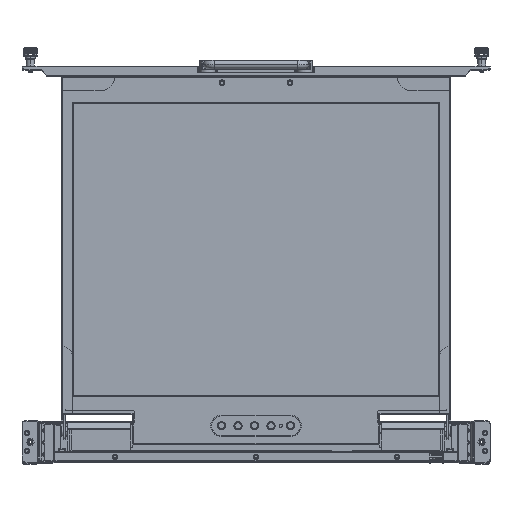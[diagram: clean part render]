
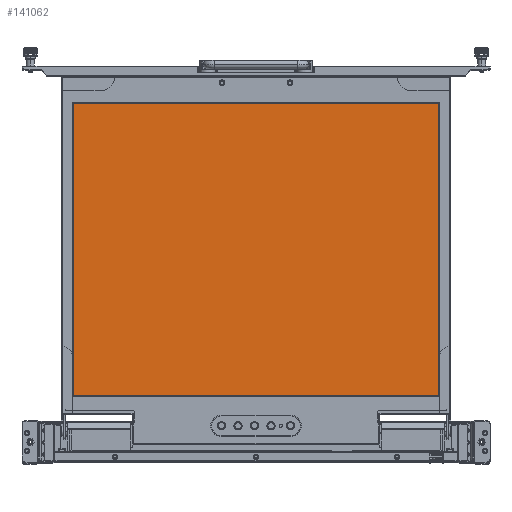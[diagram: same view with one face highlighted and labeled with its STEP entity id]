
A CAD part, top view. The second image highlights one B-rep face of the part: STEP entity #141062.
In plain terms, the highlighted planar face has unit normal (0, 0, 1).
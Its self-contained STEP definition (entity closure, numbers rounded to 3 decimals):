
#140640=DIRECTION('',(-1.,0.,0.));
#140641=VECTOR('',#140640,376.32);
#140642=CARTESIAN_POINT('',(188.16,49.27,-82.85));
#140643=LINE('',#140642,#140641);
#140644=DIRECTION('',(0.,1.,0.));
#140645=VECTOR('',#140644,301.06);
#140646=CARTESIAN_POINT('',(-188.16,49.27,-82.85));
#140647=LINE('',#140646,#140645);
#140648=DIRECTION('',(1.,0.,0.));
#140649=VECTOR('',#140648,376.32);
#140650=CARTESIAN_POINT('',(-188.16,350.33,-82.85));
#140651=LINE('',#140650,#140649);
#140652=DIRECTION('',(0.,-1.,0.));
#140653=VECTOR('',#140652,301.06);
#140654=CARTESIAN_POINT('',(188.16,350.33,-82.85));
#140655=LINE('',#140654,#140653);
#140790=CARTESIAN_POINT('',(-188.16,49.27,-82.85));
#140791=CARTESIAN_POINT('',(188.16,49.27,-82.85));
#140792=VERTEX_POINT('',#140790);
#140793=VERTEX_POINT('',#140791);
#140794=CARTESIAN_POINT('',(188.16,350.33,-82.85));
#140795=VERTEX_POINT('',#140794);
#140796=CARTESIAN_POINT('',(-188.16,350.33,-82.85));
#140797=VERTEX_POINT('',#140796);
#141047=CARTESIAN_POINT('',(0.,199.8,-82.85));
#141048=DIRECTION('',(0.,0.,1.));
#141049=DIRECTION('',(1.,0.,0.));
#141050=AXIS2_PLACEMENT_3D('',#141047,#141048,#141049);
#141051=PLANE('',#141050);
#141053=ORIENTED_EDGE('',*,*,#141052,.T.);
#141055=ORIENTED_EDGE('',*,*,#141054,.T.);
#141057=ORIENTED_EDGE('',*,*,#141056,.T.);
#141059=ORIENTED_EDGE('',*,*,#141058,.T.);
#141060=EDGE_LOOP('',(#141053,#141055,#141057,#141059));
#141061=FACE_OUTER_BOUND('',#141060,.F.);
#141052=EDGE_CURVE('',#140793,#140792,#140643,.T.);
#141054=EDGE_CURVE('',#140792,#140797,#140647,.T.);
#141056=EDGE_CURVE('',#140797,#140795,#140651,.T.);
#141058=EDGE_CURVE('',#140795,#140793,#140655,.T.);
#141062=ADVANCED_FACE('',(#141061),#141051,.T.);
